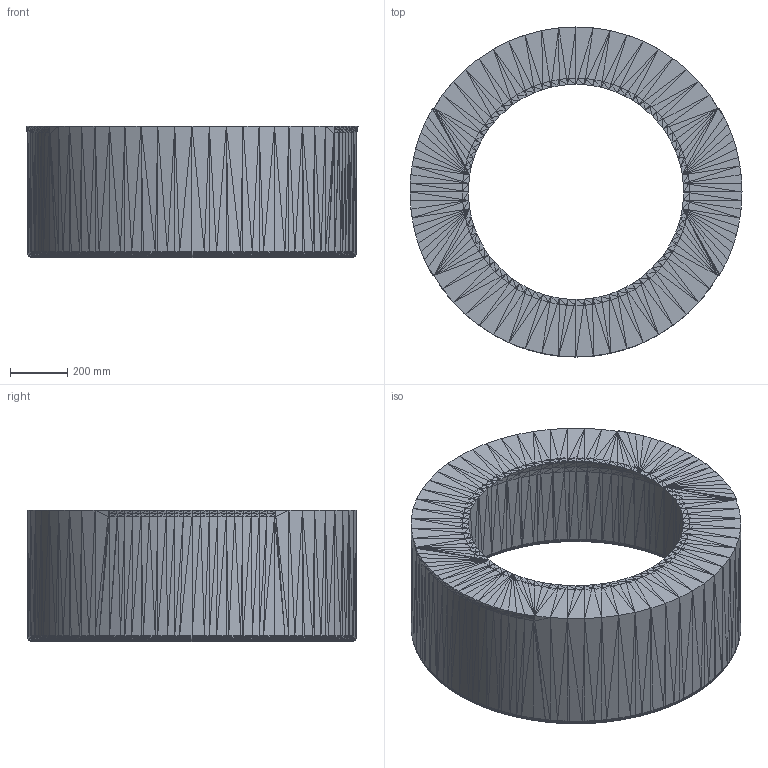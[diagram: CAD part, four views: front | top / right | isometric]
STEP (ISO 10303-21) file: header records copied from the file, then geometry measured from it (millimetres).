
FILE_DESCRIPTION(/* description */ (''),/* implementation_level */ '2;1');
FILE_NAME(/* name */ 'Shoulder_bottom.step',/* time_stamp */ '2026-08-26T22:04:02+02:00',/* author */ (''),/* organization */ (''),/* preprocessor_version */ 'ST-DEVELOPER v20.1',/* originating_system */ 'Autodesk Translation Framework v15.8.0.0',/* authorisation */ '');
FILE_SCHEMA (('AUTOMOTIVE_DESIGN { 1 0 10303 214 3 1 1 }'));
Products named in the file (1): 2026-08-26-22-03-35-914
Bounding box: 1157.44 x 1150 x 458 mm (x, y, z)
Volume: 93522981.2 mm3; surface area: 4079694.3 mm2
Topology: 1 solids, 1 shells, 6264 faces, 9396 edges, 3132 vertices
Faces by surface type: plane 6264
Entity records: 122189 total; most frequent: DIRECTION 21926, CARTESIAN_POINT 18793, ORIENTED_EDGE 18792, LINE 9396, VECTOR 9396, EDGE_CURVE 9396, AXIS2_PLACEMENT_3D 6265, FACE_OUTER_BOUND 6264
